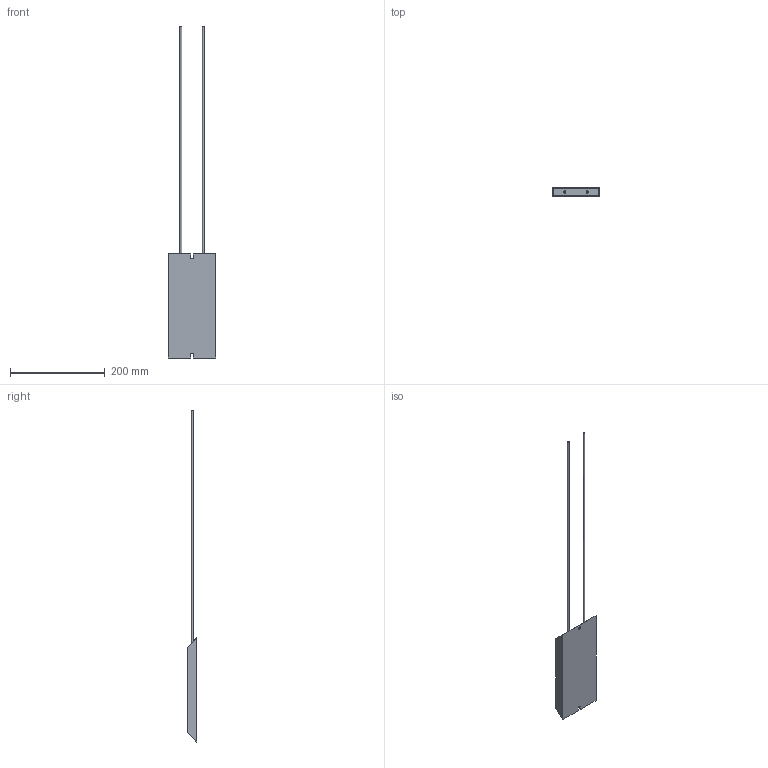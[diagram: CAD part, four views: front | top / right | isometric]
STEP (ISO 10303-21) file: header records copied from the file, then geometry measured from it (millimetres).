
FILE_DESCRIPTION(/* description */ (''),/* implementation_level */ '2;1');
FILE_NAME(/* name */ 'C:\_Vault\Dati\CATALOGO\RFD\RFDV550.stp',/* time_stamp */ '2014-03-24T18:24:18+01:00',/* author */ ('stefano'),/* organization */ (''),/* preprocessor_version */ 'ST-DEVELOPER v15.2',/* originating_system */ 'Autodesk Inventor 2014',/* authorisation */ '');
FILE_SCHEMA (('AUTOMOTIVE_DESIGN { 1 0 10303 214 3 1 1 }'));
Length unit declared in the file: millimetre
Products named in the file (1): RFDV550
Bounding box: 100 x 20 x 702.1 mm (x, y, z)
Volume: 387800.5 mm3; surface area: 68400.9 mm2
Topology: 1 solids, 1 shells, 28 faces, 66 edges, 44 vertices
Faces by surface type: plane 22, cylinder 6
Full cylindrical faces by diameter (mm): 2 x2, 4 x2
Entity records: 866 total; most frequent: CARTESIAN_POINT 135, DIRECTION 132, ORIENTED_EDGE 124, EDGE_CURVE 62, LINE 50, VECTOR 50, VERTEX_POINT 44, AXIS2_PLACEMENT_3D 41
